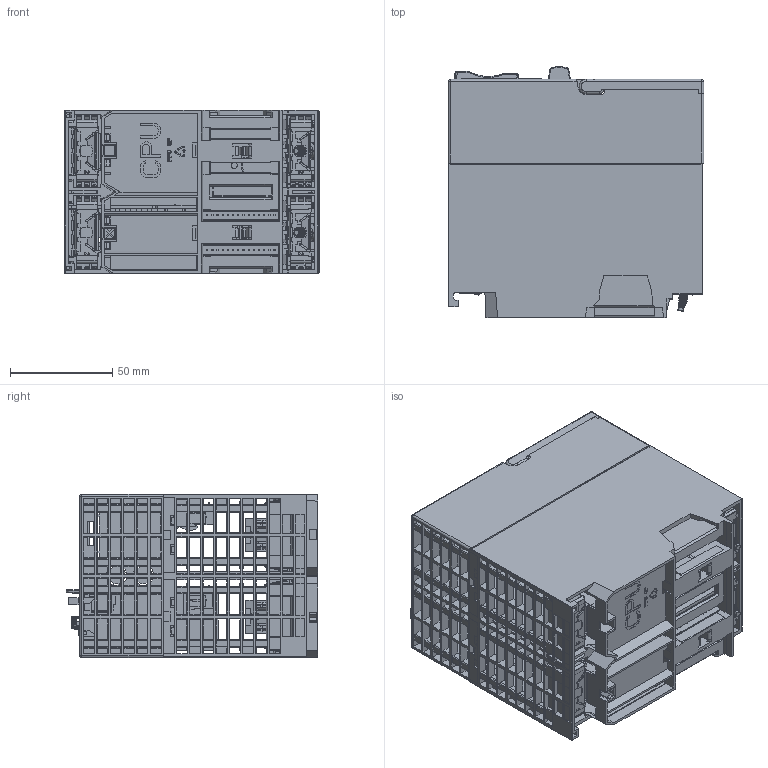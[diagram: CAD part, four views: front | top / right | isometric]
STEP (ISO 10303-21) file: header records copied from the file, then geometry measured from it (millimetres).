
FILE_DESCRIPTION((''),'2;1');
FILE_NAME('317-2AJ13_DET5','2015-01-15T',('tbothe'),(''),'PRO/ENGINEER BY PARAMETRIC TECHNOLOGY CORPORATION, 2013320','PRO/ENGINEER BY PARAMETRIC TECHNOLOGY CORPORATION, 2013320','');
FILE_SCHEMA(('CONFIG_CONTROL_DESIGN'));
Products named in the file (1): 317-2AJ13_DET5
Bounding box: 125 x 123.09 x 80 mm (x, y, z)
Surface area: 193992.6 mm2 (no closed solid volume)
Topology: 0 solids, 251 shells, 3337 faces, 17032 edges, 13285 vertices
Faces by surface type: plane 2432, cylinder 761, bspline 67, cone 40, torus 24, sphere 12, extrusion 1
Entity records: 177206 total; most frequent: CARTESIAN_POINT 48249, ORIENTED_EDGE 24490, DIRECTION 23905, EDGE_CURVE 17020, VECTOR 13785, LINE 13784, VERTEX_POINT 13282, AXIS2_PLACEMENT_3D 5060
